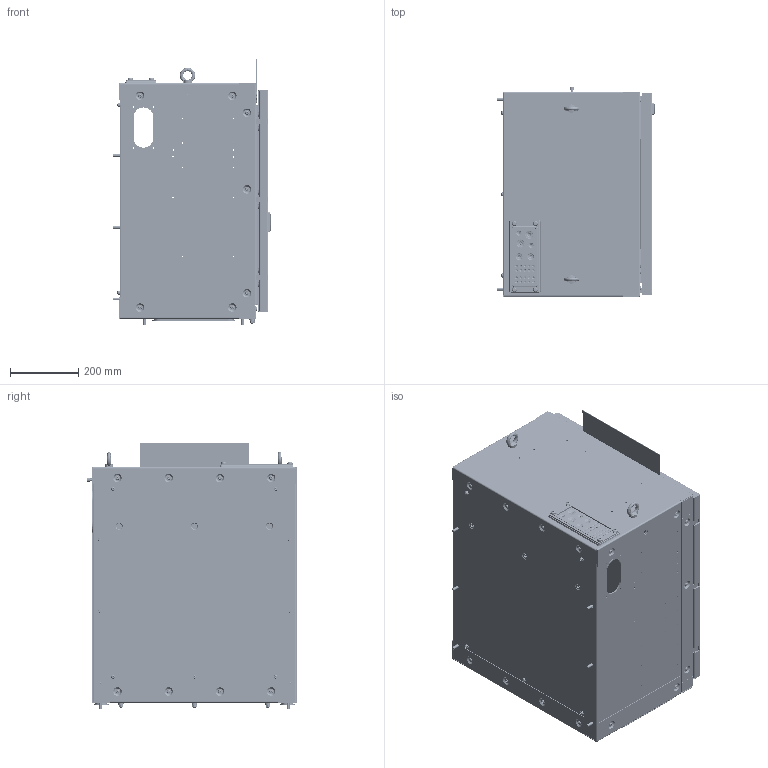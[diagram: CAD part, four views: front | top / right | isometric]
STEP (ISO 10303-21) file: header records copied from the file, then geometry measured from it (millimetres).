
FILE_DESCRIPTION(/* description */ (''),/* implementation_level */ '2;1');
FILE_NAME(/* name */ 'D:\Vault\Working\MFCing\2023\SE-23-219\SE-23-219.354.00.stp',/* time_stamp */ '2023-05-22T16:20:35+03:00',/* author */ ('KEN'),/* organization */ (''),/* preprocessor_version */ 'ST-DEVELOPER v17',/* originating_system */ 'Autodesk Inventor 2019',/* authorisation */ '');
FILE_SCHEMA (('AUTOMOTIVE_DESIGN { 1 0 10303 214 3 1 1 }'));
Products named in the file (74): SE-23-219.354.00; RIDA.356.00; RIDA.357.00; RIDA.357.00_1; RIDA.357.01; DIN 975 C Threaded Rod M6x20; TR-FH-M6x20; RIDA.357.02; Hinge_GJL1-3; Hinge_GJL1-3_1; Hinge_GJL1-3_2; Hinge_GJL1-3_Fixed_unit; Hinge_GJL1-3_Turn_unit; Hinge_GJL1-3_Axle; ISO 7380 - M8 x 20; Earthing-braid-MBS-6-300-6; Rod-latch_Cover_for_LV; Double bit 5 Insert _221317-12IB; Rod-guide_285025; Rod-latch_LV_8-2705-27; MIL2.276.00; 3DAC-6106-01-01; 6106-01-XX_ASM_5_ASM; 1087-03_1; T-6106-02_9; T-6106-05_6; 1087-05_1; 1087-04_1; D125A_6_4_1; D933_M6X16_1; D125A_5_3_1; MIL2.155.03; DIN 985 - M6; DIN 7337 - B6 x 12 x 4; RIDA.355.00; RIDA.355.01; TR-FH-M6x15; RIDA.354.01; SE-23-219.1141.03; RIDA.271.05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
Assembly tree (322 placements, depth 6):
  SE-23-219.354.00
    RIDA.356.00
      RIDA.357.00
        RIDA.357.00_1
        RIDA.357.01
        DIN 975 C Threaded Rod M6x20
        TR-FH-M6x20  x5
        RIDA.357.02
      Hinge_GJL1-3
        Hinge_GJL1-3_Fixed_unit  x2
        Hinge_GJL1-3_Turn_unit
        Hinge_GJL1-3_Axle
        ISO 7380 - M8 x 20  x2
        DIN 125 - A 10,5
        DIN 127 - A 10
        DIN 934 - M10
      Hinge_GJL1-3_1
        Hinge_GJL1-3_Fixed_unit  x2
        Hinge_GJL1-3_Turn_unit
        Hinge_GJL1-3_Axle
        ISO 7380 - M8 x 20  x2
        DIN 125 - A 10,5
        DIN 127 - A 10
        DIN 934 - M10
      Hinge_GJL1-3_2
        Hinge_GJL1-3_Fixed_unit  x2
        Hinge_GJL1-3_Turn_unit
        Hinge_GJL1-3_Axle
        ISO 7380 - M8 x 20  x2
        DIN 125 - A 10,5
        DIN 127 - A 10
        DIN 934 - M10
      Earthing-braid-MBS-6-300-6
      Rod-latch_Cover_for_LV
      Double bit 5 Insert _221317-12IB
      Rod-guide_285025  x3
      DIN 125 - A 6,4  x5
      DIN 127 - A 6  x4
      DIN 934 - M6  x4
      Rod-latch_LV_8-2705-27
      MIL2.276.00
        3DAC-6106-01-01
          6106-01-XX_ASM_5_ASM
            1087-03_1
            T-6106-02_9
            T-6106-05_6
            1087-05_1
            1087-04_1
            D125A_6_4_1
            D933_M6X16_1
            D125A_5_3_1
        MIL2.155.03
        DIN 985 - M6  x2
        DIN 7337 - B6 x 12 x 4  x3
    RIDA.355.00
      RIDA.355.01
      TR-FH-M6x15  x5
    RIDA.354.01
    SE-23-219.1141.03
    RIDA.271.05
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Bounding box: 463 x 613.6 x 781.37 mm (x, y, z)
Volume: 6061854.4 mm3; surface area: 6424800.1 mm2
Topology: 313 solids, 1259 shells, 13219 faces, 35990 edges, 24940 vertices
Faces by surface type: plane 5888, cylinder 2993, bspline 2101, torus 997, cone 972, sphere 268
Full cylindrical faces by diameter (mm): 0.445 x2, 2 x23, 3 x22, 3.5 x22, 4 x11, 4.3 x4, 4.35 x2, 4.5 x72, 4.917 x37, 5 x36, 5.1 x2, 5.2 x1, 5.3 x3, 5.7 x2, 5.8 x5, 6 x61, 6.2 x1, 6.3 x2, 6.4 x137, 6.647 x8, 7 x49, 7.3 x4, 7.5 x1, 8 x44, 8.1 x9, 8.376 x5, 8.4 x30, 8.75 x5, 8.9 x2, 9 x6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
Entity records: 397518 total; most frequent: CARTESIAN_POINT 173730, ORIENTED_EDGE 46260, DIRECTION 43420, EDGE_CURVE 23547, AXIS2_PLACEMENT_3D 15865, VERTEX_POINT 15610, LINE 11690, VECTOR 11690
